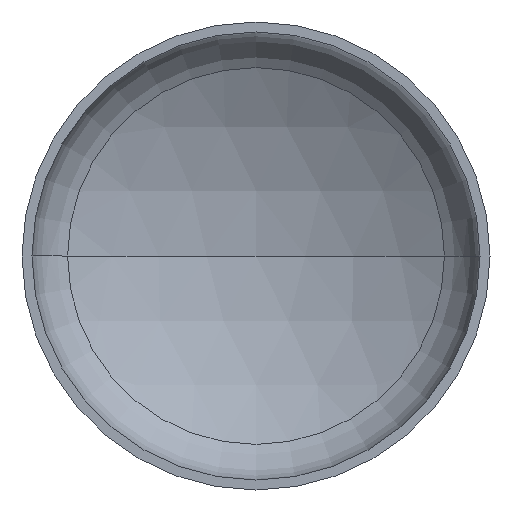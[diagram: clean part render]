
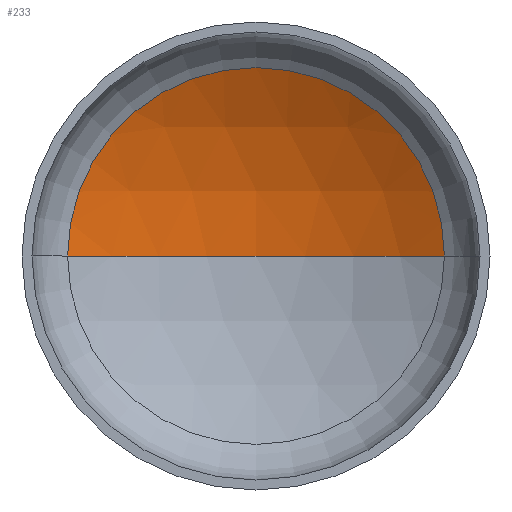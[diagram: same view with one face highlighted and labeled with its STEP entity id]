
A CAD part, front view. The second image highlights one B-rep face of the part: STEP entity #233.
In plain terms, the highlighted spherical face has radius 1200 mm.
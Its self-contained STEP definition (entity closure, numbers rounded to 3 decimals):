
#2 = DIRECTION ( 'NONE',  ( 0., -1., 0. ) ) ;
#8 = DIRECTION ( 'NONE',  ( 0., 0., -1. ) ) ;
#21 = CARTESIAN_POINT ( 'NONE',  ( 0., -738.305, 0. ) ) ;
#23 = AXIS2_PLACEMENT_3D ( 'NONE', #186, #240, #48 ) ;
#31 = EDGE_LOOP ( 'NONE', ( #35, #145, #148 ) ) ;
#33 = AXIS2_PLACEMENT_3D ( 'NONE', #197, #225, #391 ) ;
#35 = ORIENTED_EDGE ( 'NONE', *, *, #95, .F. ) ;
#37 = AXIS2_PLACEMENT_3D ( 'NONE', #21, #8, #141 ) ;
#38 = AXIS2_PLACEMENT_3D ( 'NONE', #151, #2, #221 ) ;
#47 = VERTEX_POINT ( 'NONE', #247 ) ;
#48 = DIRECTION ( 'NONE',  ( -1., 0., 0. ) ) ;
#93 = EDGE_CURVE ( 'NONE', #299, #144, #402, .T. ) ;
#94 = EDGE_CURVE ( 'NONE', #47, #299, #278, .T. ) ;
#95 = EDGE_CURVE ( 'NONE', #47, #144, #214, .T. ) ;
#141 = DIRECTION ( 'NONE',  ( -1., 0., 0. ) ) ;
#144 = VERTEX_POINT ( 'NONE', #411 ) ;
#145 = ORIENTED_EDGE ( 'NONE', *, *, #94, .T. ) ;
#148 = ORIENTED_EDGE ( 'NONE', *, *, #93, .T. ) ;
#151 = CARTESIAN_POINT ( 'NONE',  ( 0., 298.773, 0. ) ) ;
#186 = CARTESIAN_POINT ( 'NONE',  ( 0., -738.305, 0. ) ) ;
#197 = CARTESIAN_POINT ( 'NONE',  ( 0., -738.305, 0. ) ) ;
#214 = CIRCLE ( 'NONE', #33, 1200. ) ;
#221 = DIRECTION ( 'NONE',  ( 1., 0., 0. ) ) ;
#225 = DIRECTION ( 'NONE',  ( 0., 0., 1. ) ) ;
#233 = ADVANCED_FACE ( 'NONE', ( #327 ), #333, .F. ) ;
#240 = DIRECTION ( 'NONE',  ( 0., 0., -1. ) ) ;
#247 = CARTESIAN_POINT ( 'NONE',  ( 0., 461.695, 0. ) ) ;
#278 = CIRCLE ( 'NONE', #37, 1200. ) ;
#299 = VERTEX_POINT ( 'NONE', #388 ) ;
#327 = FACE_OUTER_BOUND ( 'NONE', #31, .T. ) ;
#333 = SPHERICAL_SURFACE ( 'NONE', #23, 1200. ) ;
#388 = CARTESIAN_POINT ( 'NONE',  ( 603.711, 298.773, 0. ) ) ;
#391 = DIRECTION ( 'NONE',  ( 1., 0., 0. ) ) ;
#402 = CIRCLE ( 'NONE', #38, 603.711 ) ;
#411 = CARTESIAN_POINT ( 'NONE',  ( -603.711, 298.773, 0. ) ) ;
